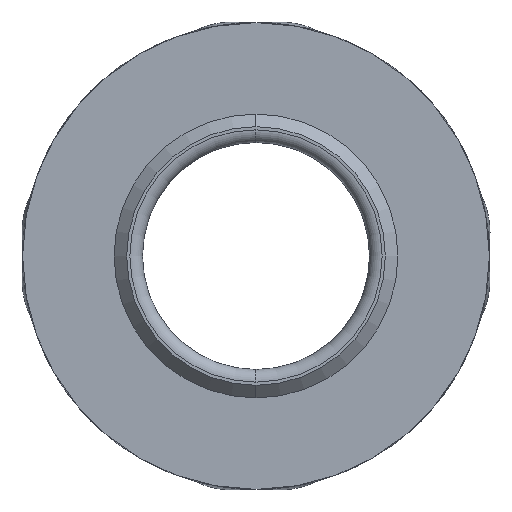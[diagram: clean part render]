
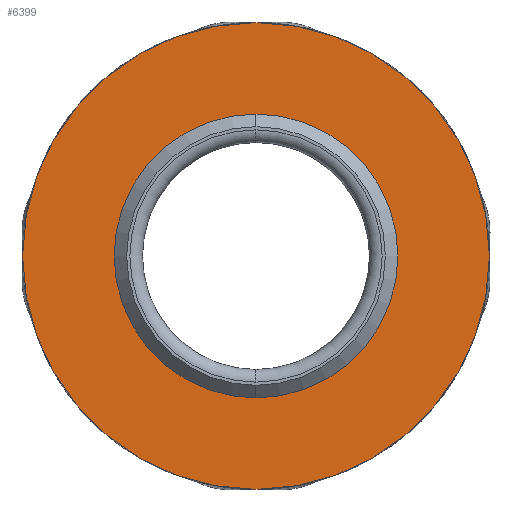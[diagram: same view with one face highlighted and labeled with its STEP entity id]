
A CAD part, front view. The second image highlights one B-rep face of the part: STEP entity #6399.
In plain terms, the highlighted planar face has unit normal (0, -1, 0).
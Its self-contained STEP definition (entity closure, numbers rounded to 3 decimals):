
#274 = AXIS2_PLACEMENT_3D ( 'NONE', #1505, #7089, #7204 ) ;
#277 = VERTEX_POINT ( 'NONE', #2159 ) ;
#374 = CARTESIAN_POINT ( 'NONE',  ( 17732.393, 2936.988, 0. ) ) ;
#566 = AXIS2_PLACEMENT_3D ( 'NONE', #2842, #2048, #9202 ) ;
#935 = CARTESIAN_POINT ( 'NONE',  ( 17732.393, 2936.988, 0. ) ) ;
#1076 = VERTEX_POINT ( 'NONE', #2084 ) ;
#1106 = EDGE_LOOP ( 'NONE', ( #1125, #6920 ) ) ;
#1125 = ORIENTED_EDGE ( 'NONE', *, *, #5592, .F. ) ;
#1505 = CARTESIAN_POINT ( 'NONE',  ( 17732.393, 2936.988, 0. ) ) ;
#2048 = DIRECTION ( 'NONE',  ( 0., -1., 0. ) ) ;
#2084 = CARTESIAN_POINT ( 'NONE',  ( 17732.393, 2936.988, -18.5 ) ) ;
#2159 = CARTESIAN_POINT ( 'NONE',  ( 17732.393, 2936.988, 18.5 ) ) ;
#2401 = VERTEX_POINT ( 'NONE', #3545 ) ;
#2629 = CIRCLE ( 'NONE', #5114, 10.55 ) ;
#2842 = CARTESIAN_POINT ( 'NONE',  ( 17732.393, 2936.988, 0. ) ) ;
#2972 = CARTESIAN_POINT ( 'NONE',  ( 17713.893, 2936.988, 0. ) ) ;
#3545 = CARTESIAN_POINT ( 'NONE',  ( 17732.393, 2936.988, -10.55 ) ) ;
#3601 = AXIS2_PLACEMENT_3D ( 'NONE', #2972, #5445, #8626 ) ;
#3957 = CIRCLE ( 'NONE', #566, 18.5 ) ;
#4145 = ORIENTED_EDGE ( 'NONE', *, *, #6318, .T. ) ;
#4999 = EDGE_CURVE ( 'NONE', #1076, #277, #3957, .T. ) ;
#5114 = AXIS2_PLACEMENT_3D ( 'NONE', #935, #5756, #8169 ) ;
#5181 = DIRECTION ( 'NONE',  ( 0., 0., -1. ) ) ;
#5386 = AXIS2_PLACEMENT_3D ( 'NONE', #374, #6066, #5181 ) ;
#5445 = DIRECTION ( 'NONE',  ( 0., 1., 0. ) ) ;
#5592 = EDGE_CURVE ( 'NONE', #2401, #7734, #2629, .T. ) ;
#5756 = DIRECTION ( 'NONE',  ( 0., -1., 0. ) ) ;
#6018 = ORIENTED_EDGE ( 'NONE', *, *, #4999, .T. ) ;
#6066 = DIRECTION ( 'NONE',  ( 0., -1., 0. ) ) ;
#6318 = EDGE_CURVE ( 'NONE', #277, #1076, #6917, .T. ) ;
#6399 = ADVANCED_FACE ( 'NONE', ( #9286, #7660 ), #7757, .F. ) ;
#6917 = CIRCLE ( 'NONE', #5386, 18.5 ) ;
#6920 = ORIENTED_EDGE ( 'NONE', *, *, #7530, .F. ) ;
#7089 = DIRECTION ( 'NONE',  ( 0., -1., 0. ) ) ;
#7204 = DIRECTION ( 'NONE',  ( 0., 0., -1. ) ) ;
#7233 = EDGE_LOOP ( 'NONE', ( #6018, #4145 ) ) ;
#7440 = CARTESIAN_POINT ( 'NONE',  ( 17732.393, 2936.988, 10.55 ) ) ;
#7530 = EDGE_CURVE ( 'NONE', #7734, #2401, #7777, .T. ) ;
#7660 = FACE_OUTER_BOUND ( 'NONE', #7233, .T. ) ;
#7734 = VERTEX_POINT ( 'NONE', #7440 ) ;
#7757 = PLANE ( 'NONE',  #3601 ) ;
#7777 = CIRCLE ( 'NONE', #274, 10.55 ) ;
#8169 = DIRECTION ( 'NONE',  ( 0., 0., -1. ) ) ;
#8626 = DIRECTION ( 'NONE',  ( 0., 0., 1. ) ) ;
#9202 = DIRECTION ( 'NONE',  ( 0., 0., -1. ) ) ;
#9286 = FACE_BOUND ( 'NONE', #1106, .T. ) ;
